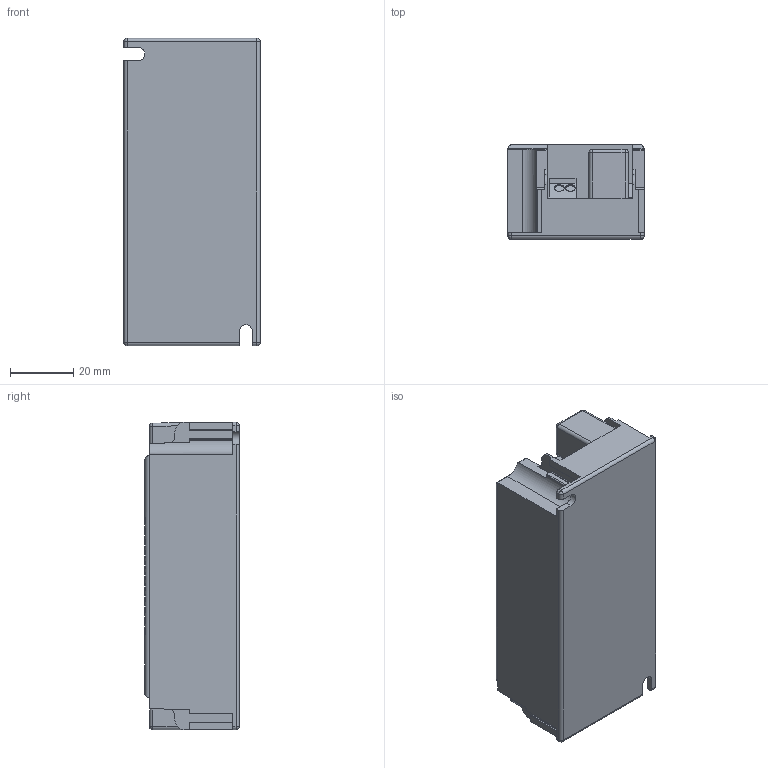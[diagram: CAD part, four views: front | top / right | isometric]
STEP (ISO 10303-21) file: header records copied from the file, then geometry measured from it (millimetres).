
FILE_DESCRIPTION((''),'2;1');
FILE_NAME('15008950Z_DATA_SC97MM_ATL_2-2','2015-02-27T',('juergen.hrach'),(''),'PRO/ENGINEER BY PARAMETRIC TECHNOLOGY CORPORATION, 2014000','PRO/ENGINEER BY PARAMETRIC TECHNOLOGY CORPORATION, 2014000','');
FILE_SCHEMA(('AUTOMOTIVE_DESIGN { 1 0 10303 214 1 1 1 1 }'));
Length unit declared in the file: millimetre
Products named in the file (1): 15008950Z_DATA_SC97MM_ATL_2-2
Bounding box: 43 x 29.8 x 97 mm (x, y, z)
Volume: 109765.7 mm3; surface area: 19487.5 mm2
Topology: 1 solids, 1 shells, 326 faces, 908 edges, 590 vertices
Faces by surface type: plane 191, cylinder 121, sphere 12, torus 2
Entity records: 13925 total; most frequent: CARTESIAN_POINT 1940, ORIENTED_EDGE 1816, DIRECTION 1813, PRESENTATION_STYLE_ASSIGNMENT 933, STYLED_ITEM 909, CURVE_STYLE 908, EDGE_CURVE 908, VECTOR 617
